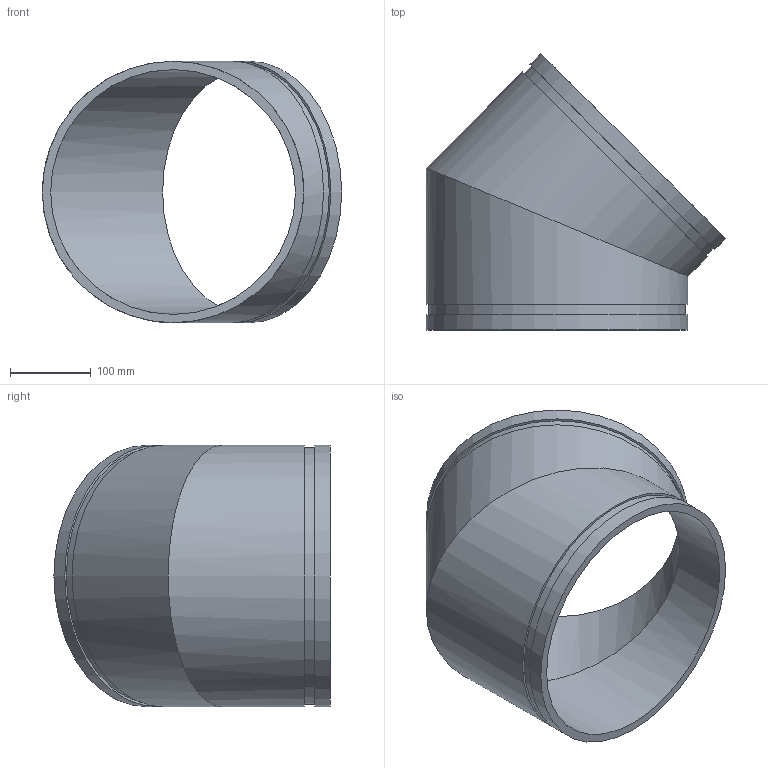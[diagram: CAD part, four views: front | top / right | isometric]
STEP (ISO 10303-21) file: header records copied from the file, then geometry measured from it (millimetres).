
FILE_DESCRIPTION(/* description */ ('VIC 45 DEG FABRICATED ELBOW No 11 SWS (OGS)','CAx-IF Rec.Pracs.---Representation and Presentation of Product Manufacturing Information (PMI)---4.0---2014-10-13'),/* implementation_level */ '2;1');
FILE_NAME(/* name */ 'C:\Users\kkamble\AppData\Roaming\Autodesk\ApplicationPlugins\Back Up\Victaulic_IPS_Elbow 45 Deg_No 11 SWS (OGS)\Victaulic_IPS_Elbow 45 Deg_No 11 SWS (OGS)_12 (300).stp',/* time_stamp */ '2020-09-16T22:14:59+06:00',/* author */ ('cgray'),/* organization */ ('Victaulic'),/* preprocessor_version */ 'ST-DEVELOPER v17.2',/* originating_system */ 'Autodesk Inventor 2019',/* authorisation */ '');
FILE_SCHEMA (('AP242_MANAGED_MODEL_BASED_3D_ENGINEERING_MIM_LF { 1 0 10303 442 1 1 4 }'));
Length unit declared in the file: inch
Products named in the file (1): 11 SWS-12.0
Bounding box: 370.72 x 342.14 x 323.85 mm (x, y, z)
Volume: 2637825.8 mm3; surface area: 556496.3 mm2
Topology: 1 solids, 1 shells, 14 faces, 30 edges, 22 vertices
Faces by surface type: cylinder 8, plane 6
Full cylindrical faces by diameter (mm): 303.225 x2, 318.287 x2, 323.85 x4
Entity records: 554 total; most frequent: DIRECTION 108, CARTESIAN_POINT 84, ORIENTED_EDGE 60, AXIS2_PLACEMENT_3D 50, EDGE_CURVE 30, VERTEX_POINT 22, EDGE_LOOP 20, CIRCLE 16
